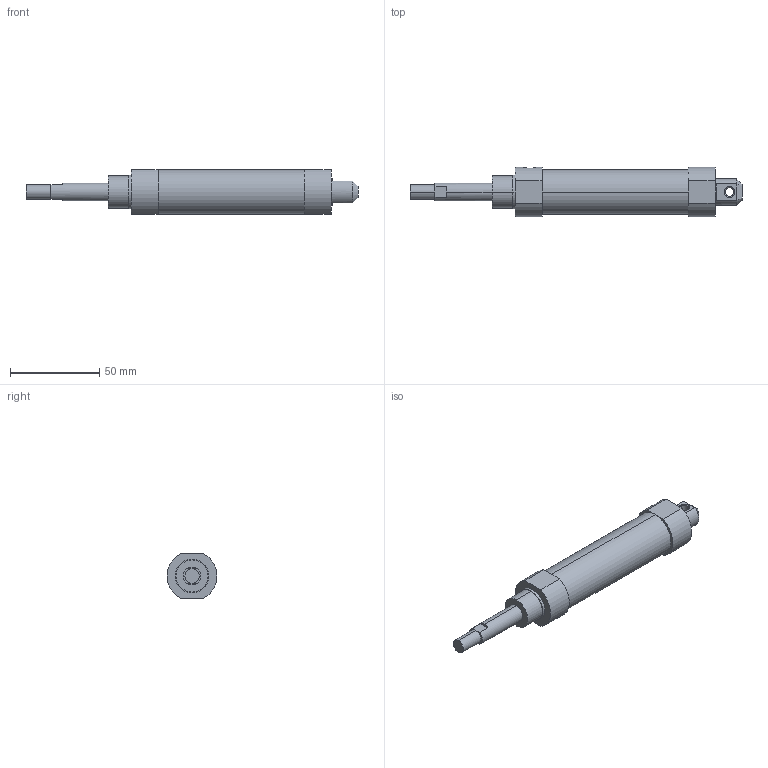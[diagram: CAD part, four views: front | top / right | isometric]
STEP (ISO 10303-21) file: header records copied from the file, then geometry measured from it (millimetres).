
FILE_DESCRIPTION (( 'STEP AP203' ), '1' );
FILE_NAME ('J#0-20-25-C.STEP', '2016-03-08T06:16:57', ( '' ), ( '' ), 'SwSTEP 2.0', 'SolidWorks 2014', '' );
FILE_SCHEMA (( 'CONFIG_CONTROL_DESIGN' ));
Length unit declared in the file: millimetre
Products named in the file (1): J#0-20-25-C
Bounding box: 186 x 27.95 x 25 mm (x, y, z)
Volume: 65678.1 mm3; surface area: 13617.3 mm2
Topology: 1 solids, 1 shells, 53 faces, 118 edges, 72 vertices
Faces by surface type: plane 27, cylinder 20, cone 6
Entity records: 1611 total; most frequent: CARTESIAN_POINT 322, DIRECTION 272, ORIENTED_EDGE 236, EDGE_CURVE 118, AXIS2_PLACEMENT_3D 106, VERTEX_POINT 72, EDGE_LOOP 60, VECTOR 60
